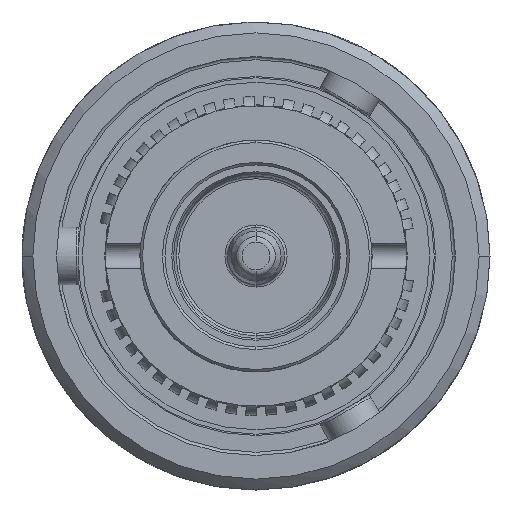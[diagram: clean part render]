
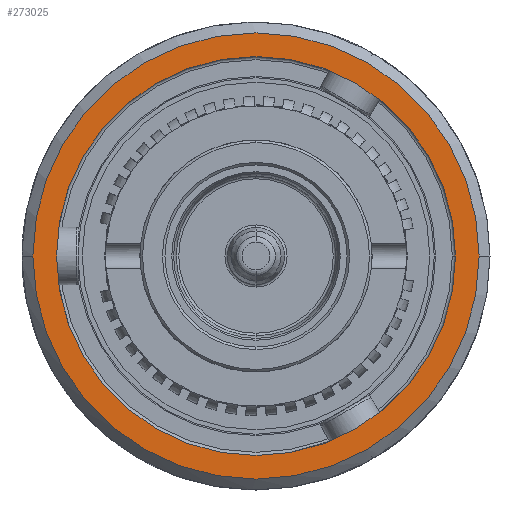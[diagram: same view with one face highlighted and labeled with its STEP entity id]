
A CAD part, left-side view. The second image highlights one B-rep face of the part: STEP entity #273025.
In plain terms, the highlighted planar face has unit normal (-1, 0, 0).
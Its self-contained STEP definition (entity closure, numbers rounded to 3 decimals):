
#77761=CARTESIAN_POINT('',(2.2,0.,0.));
#77762=DIRECTION('',(1.,0.,0.));
#77763=DIRECTION('',(0.,1.,0.));
#77764=AXIS2_PLACEMENT_3D('',#77761,#77762,#77763);
#77924=CARTESIAN_POINT('',(2.2,0.,0.));
#77925=DIRECTION('',(-1.,0.,0.));
#77926=DIRECTION('',(0.,1.,0.));
#77927=AXIS2_PLACEMENT_3D('',#77924,#77925,#77926);
#78055=CARTESIAN_POINT('',(2.2,0.,0.));
#78056=DIRECTION('',(1.,0.,0.));
#78057=DIRECTION('',(0.,1.,0.));
#78058=AXIS2_PLACEMENT_3D('',#78055,#78056,#78057);
#78060=CARTESIAN_POINT('',(2.2,0.,0.));
#78061=DIRECTION('',(-1.,0.,0.));
#78062=DIRECTION('',(0.,1.,0.));
#78063=AXIS2_PLACEMENT_3D('',#78060,#78061,#78062);
#91255=CARTESIAN_POINT('',(2.2,15.56,0.));
#91256=CARTESIAN_POINT('',(2.2,-15.56,0.));
#91257=VERTEX_POINT('',#91255);
#91258=VERTEX_POINT('',#91256);
#91285=CARTESIAN_POINT('',(2.2,-17.4,0.));
#91287=VERTEX_POINT('',#91285);
#91289=CARTESIAN_POINT('',(2.2,17.4,0.));
#91290=VERTEX_POINT('',#91289);
#273010=CARTESIAN_POINT('',(2.2,0.,0.));
#273011=DIRECTION('',(-1.,0.,0.));
#273012=DIRECTION('',(0.,-1.,0.));
#273013=AXIS2_PLACEMENT_3D('',#273010,#273011,#273012);
#273014=PLANE('436',#273013);
#273015=ORIENTED_EDGE('9180',*,*,#272681,.F.);
#273016=ORIENTED_EDGE('9181',*,*,#272338,.T.);
#273017=EDGE_LOOP('436',(#273015,#273016));
#273018=FACE_OUTER_BOUND('436',#273017,.F.);
#273020=ORIENTED_EDGE('9165',*,*,#273019,.F.);
#273022=ORIENTED_EDGE('9164',*,*,#273021,.T.);
#273023=EDGE_LOOP('436',(#273020,#273022));
#273024=FACE_BOUND('436',#273023,.F.);
#77765=CIRCLE('9181',#77764,17.4);
#77928=CIRCLE('9180',#77927,17.4);
#78059=CIRCLE('9165',#78058,15.56);
#78064=CIRCLE('9164',#78063,15.56);
#272338=EDGE_CURVE('9181',#91290,#91287,#77765,.T.);
#272681=EDGE_CURVE('9180',#91290,#91287,#77928,.T.);
#273019=EDGE_CURVE('9165',#91257,#91258,#78059,.T.);
#273021=EDGE_CURVE('9164',#91257,#91258,#78064,.T.);
#273025=ADVANCED_FACE('436',(#273018,#273024),#273014,.T.);
